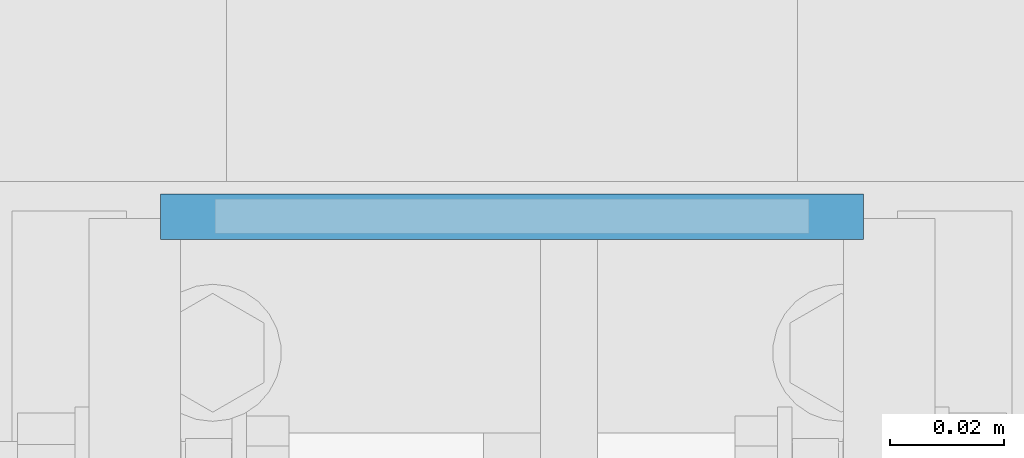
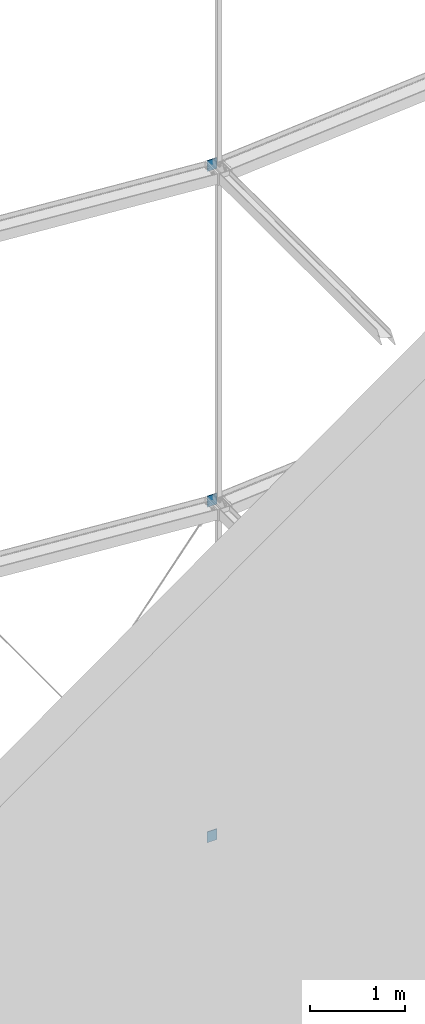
# One storey, part 72 of 271: 3 beams, 3 elements without a shape of their own.
"""IFC2X3 building model written with IfcOpenShell, lengths in millimetres."""

from ifc_helpers import new_model, si_unit, frame, origin_with_axes, origin_2d_with_axis, place, context, subcontext, project, spatial, rectangle, extrude, material, type_object, element, aggregate, save


model = new_model("IFC2X3")

# Units and contexts
model_context = context("Model", 3, precision=1e-05, world=origin_with_axes())
body_context = subcontext(model_context, "Body", "Model", "MODEL_VIEW")
ifc_project = project(units=[si_unit("LENGTHUNIT", "METRE", prefix="MILLI"), si_unit("AREAUNIT", "SQUARE_METRE"), si_unit("VOLUMEUNIT", "CUBIC_METRE"), si_unit("MASSUNIT", "GRAM", prefix="KILO"), si_unit("TIMEUNIT", "SECOND"), si_unit("PLANEANGLEUNIT", "RADIAN"), si_unit("SOLIDANGLEUNIT", "STERADIAN"), si_unit("THERMODYNAMICTEMPERATUREUNIT", "DEGREE_CELSIUS"), si_unit("LUMINOUSINTENSITYUNIT", "LUMEN")], contexts=[model_context])

# Site, building, storey
site_placement = place(None, origin_with_axes())
site = spatial("IfcSite", under=ifc_project, at=site_placement, Name="Undefined", CompositionType="ELEMENT")
building_placement = place(site_placement, origin_with_axes())
building = spatial("IfcBuilding", under=site, at=building_placement, Name="Undefined", CompositionType="ELEMENT")
storey_placement = place(building_placement, origin_with_axes())
storey = spatial("IfcBuildingStorey", under=building, at=storey_placement, Name="Undefined", CompositionType="ELEMENT", Elevation=0.0)

# Assembly, beam
assembly_1_placement = place(storey_placement, origin_with_axes())
assembly_1 = element("IfcElementAssembly", 1, at=assembly_1_placement, inside=storey, AssemblyPlace="NOTDEFINED", PredefinedType="RIGID_FRAME")
ifc_material = material(Name="STEEL/S355JR")
beam_type = type_object("IfcBeamType", Name="BL8*140", PredefinedType="NOTDEFINED")
beam_1_placement = place(assembly_1_placement, frame((6409.87568709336, 3842.79740054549, 5684.34999990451), z_axis=(0.0, 0.0, -1.0), x_axis=(-1.0, 0.0, 1.38777878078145e-17)))
beam_1 = element("IfcBeam", 2, at=beam_1_placement, type_object=beam_type, material=ifc_material, Name="BLACHA", ObjectType="BL8*140", context=body_context, shape_type="SweptSolid", body=[
    extrude(rectangle(XDim=8.0, YDim=140.0, at=origin_2d_with_axis()), frame((123.0, 0.0, 0.0), z_axis=(-1.0, 0.0, 1.38777878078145e-17), x_axis=(0.0, -1.0, 0.0)), (0.0, 0.0, 1.0), 123.0),
])
aggregate(assembly_1, [beam_1])

assembly_2_placement = place(storey_placement, origin_with_axes())
assembly_2 = element("IfcElementAssembly", 3, at=assembly_2_placement, inside=storey, AssemblyPlace="NOTDEFINED", PredefinedType="RIGID_FRAME")
beam_2_placement = place(assembly_2_placement, frame((6409.87568709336, 3842.79740054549, 1364.34999990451), z_axis=(0.0, 0.0, -1.0), x_axis=(-1.0, 0.0, 1.38777878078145e-17)))
beam_2 = element("IfcBeam", 4, at=beam_2_placement, type_object=beam_type, material=ifc_material, Name="BLACHA", ObjectType="BL8*140", context=body_context, shape_type="SweptSolid", body=[
    extrude(rectangle(XDim=8.0, YDim=140.0, at=origin_2d_with_axis()), frame((123.0, 0.0, 0.0), z_axis=(-1.0, 0.0, 1.38777878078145e-17), x_axis=(0.0, -1.0, 0.0)), (0.0, 0.0, 1.0), 123.0),
])
aggregate(assembly_2, [beam_2])

assembly_3_placement = place(storey_placement, origin_with_axes())
assembly_3 = element("IfcElementAssembly", 5, at=assembly_3_placement, inside=storey, AssemblyPlace="NOTDEFINED", PredefinedType="RIGID_FRAME")
beam_3_placement = place(assembly_3_placement, frame((6409.87568709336, 3842.79740054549, 10004.3499999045), z_axis=(0.0, 0.0, -1.0), x_axis=(-1.0, 0.0, 1.38777878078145e-17)))
beam_3 = element("IfcBeam", 6, at=beam_3_placement, type_object=beam_type, material=ifc_material, Name="BLACHA", ObjectType="BL8*140", context=body_context, shape_type="SweptSolid", body=[
    extrude(rectangle(XDim=8.0, YDim=140.0, at=origin_2d_with_axis()), frame((123.0, 0.0, 0.0), z_axis=(-1.0, 0.0, 1.38777878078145e-17), x_axis=(0.0, -1.0, 0.0)), (0.0, 0.0, 1.0), 123.0),
])
aggregate(assembly_3, [beam_3])

save(model, "model.ifc")
